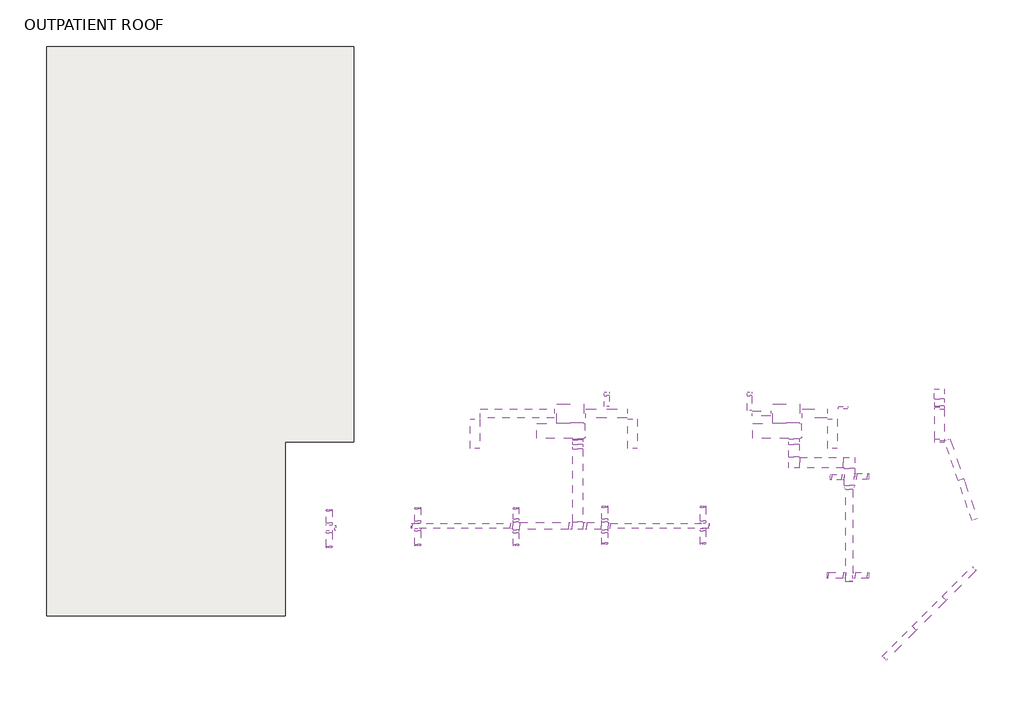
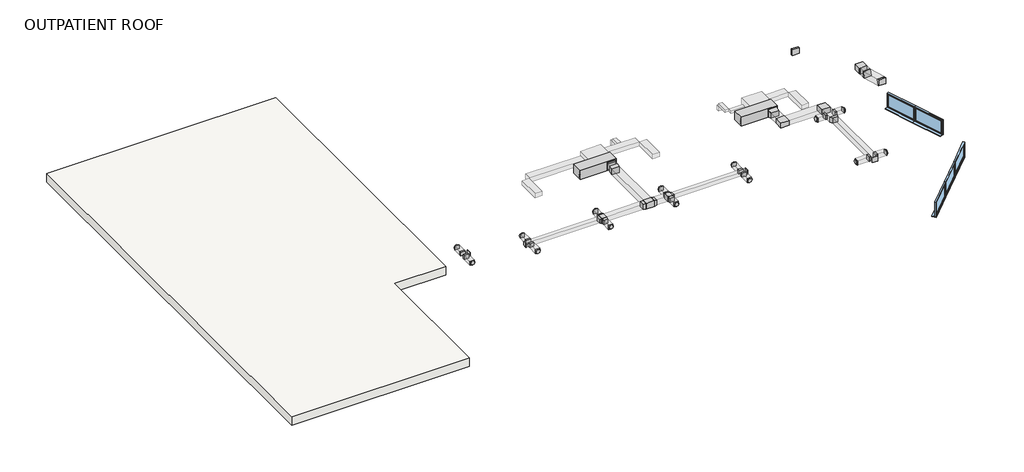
# One storey: 49 duct fittings, 39 duct segments, 5 windows, 2 proxies, 1 roof.
"""IFC4 building model written with IfcOpenShell, lengths in millimetres."""

from ifc_helpers import new_model, si_unit, frame, origin, place, context, project, spatial, polyline, outline, extrude, transform, mapped, element, save
from components import proxy_18_kw_5151a8b0, m_rectangular_duct_cross_standard_fb9310e7, m_rectangular_duct_elbow_mitered_standard_79ac9f87, m_rectangular_duct_elbow_mitered_standard_2b248f29, m_rectangular_duct_elbow_mitered_standard_fe73ea92, m_rectangular_duct_endcap_standard_7b60dd9d, m_rectangular_duct_endcap_standard_359dc76e, m_rectangular_duct_takeoff_standard_e76cbc94, m_rectangular_duct_takeoff_standard_1d6a8af3, m_rectangular_duct_takeoff_standard_c4c0db23, m_rectangular_duct_takeoff_standard_89820bfc, m_rectangular_duct_takeoff_standard_55df6f18, m_rectangular_duct_tee_standard_99600bcc, m_rectangular_duct_transition_angle_45_degree_31185545, m_rectangular_duct_transition_angle_45_degree_094bc15e, m_rectangular_duct_transition_angle_45_degree_b3017734, m_rectangular_duct_transition_angle_45_degree_f0aa5960, m_rectangular_duct_transition_angle_45_degree_accd9fbd, m_rectangular_duct_transition_angle_45_degree_b41f6140, m_rectangular_duct_transition_angle_45_degree_685b1f83, m_rectangular_to_round_duct_transition_angle_45_degree_26f3b062, m_rectangular_to_round_duct_transition_angle_45_degree_5a3a7efe, windows_concept_plain_sgl_1810x910mm_a9162c4a

model = new_model("IFC4")

# Units and contexts
model_context = context("Model", 3, world=origin())
ifc_project = project(units=[si_unit("LENGTHUNIT", "METRE", prefix="MILLI")], contexts=[model_context])

# Site, building, storey
site = spatial("IfcSite", under=ifc_project)
building = spatial("IfcBuilding", under=site)
storey = spatial("IfcBuildingStorey", under=building, Name="OUTPATIENT ROOF", Elevation=4500.0)

# Proxies
placement = place(None, origin())
proxy_18_kw_shape = proxy_18_kw_5151a8b0(model_context)
element("IfcBuildingElementProxy", 1, Name="M_WSHP - Horizontal - High Efficiency - 7-18 kW - Left Return - Right Discharge : 18 kW", ObjectType="M_WSHP - Horizontal - High Efficiency - 7-18 kW - Left Return - Right Discharge : 18 kW", at=placement, inside=storey, context=model_context, shape_type="MappedRepresentation", body=[
    mapped(proxy_18_kw_shape, transform((432831.1209559, -385954.7074796, 7485.4432391), x_axis=(0.0, -1.0, 0.0), y_axis=(1.0, 0.0, 0.0), z_axis=(0.0, 0.0, 1.0))),
])
element("IfcBuildingElementProxy", 2, Name="M_WSHP - Horizontal - High Efficiency - 7-18 kW - Left Return - Right Discharge : 18 kW", ObjectType="M_WSHP - Horizontal - High Efficiency - 7-18 kW - Left Return - Right Discharge : 18 kW", at=placement, inside=storey, context=model_context, shape_type="MappedRepresentation", body=[
    mapped(proxy_18_kw_shape, transform((442081.1209559, -385954.7074796, 7485.4432391), x_axis=(0.0, -1.0, 0.0), y_axis=(1.0, 0.0, 0.0), z_axis=(0.0, 0.0, 1.0))),
])

# Duct fittings
m_rectangular_duct_cross_standard_shape = m_rectangular_duct_cross_standard_fb9310e7(model_context)
element("IfcDuctFitting", 3, ObjectType="M_Rectangular Duct Cross : Standard", at=placement, inside=storey, context=model_context, shape_type="MappedRepresentation", body=[
    mapped(m_rectangular_duct_cross_standard_shape, transform((431949.0152402, -390342.1794977, 7685.4432391), x_axis=(1.0, 0.0, 0.0), y_axis=(0.0, -1.0, 0.0), z_axis=(0.0, 0.0, -1.0))),
])
element("IfcDuctFitting", 4, ObjectType="M_Rectangular Duct Cross : Standard", at=placement, inside=storey, context=model_context, shape_type="MappedRepresentation", body=[
    mapped(m_rectangular_duct_cross_standard_shape, transform((435749.0152402, -390342.1794977, 7685.4432391), x_axis=(1.0, 0.0, 0.0), y_axis=(0.0, 1.0, 0.0), z_axis=(0.0, 0.0, 1.0))),
])
m_rectangular_duct_elbow_mitered_standard_shape = m_rectangular_duct_elbow_mitered_standard_79ac9f87(model_context)
element("IfcDuctFitting", 5, ObjectType="M_Rectangular Duct Elbow - Mitered : Standard", at=placement, inside=storey, context=model_context, shape_type="MappedRepresentation", body=[
    mapped(m_rectangular_duct_elbow_mitered_standard_shape, transform((450068.2140217, -384679.3153221, 7084.9432391), x_axis=(0.0, 1.0, 0.0), y_axis=(-1.0, 0.0, 0.0), z_axis=(0.0, 0.0, 1.0))),
])
m_rectangular_duct_elbow_mitered_standard_2_shape = m_rectangular_duct_elbow_mitered_standard_2b248f29(model_context)
element("IfcDuctFitting", 6, ObjectType="M_Rectangular Duct Elbow - Mitered : Standard", at=placement, inside=storey, context=model_context, shape_type="MappedRepresentation", body=[
    mapped(m_rectangular_duct_elbow_mitered_standard_2_shape, transform((446208.309481, -387631.3153221, 7748.3432391), x_axis=(0.0, 1.0, 0.0), y_axis=(-1.0, 0.0, 0.0), z_axis=(0.0, 0.0, 1.0))),
])
element("IfcDuctFitting", 7, ObjectType="M_Rectangular Duct Elbow - Mitered : Standard", at=placement, inside=storey, context=model_context, shape_type="MappedRepresentation", body=[
    mapped(m_rectangular_duct_elbow_mitered_standard_2_shape, transform((443839.8209559, -387631.3153221, 7748.3432391), x_axis=(-1.0, 0.0, 0.0), y_axis=(0.0, 1.0, 0.0), z_axis=(0.0, 0.0, -1.0))),
])
m_rectangular_duct_elbow_mitered_standard_3_shape = m_rectangular_duct_elbow_mitered_standard_fe73ea92(model_context)
element("IfcDuctFitting", 8, ObjectType="M_Rectangular Duct Elbow - Mitered : Standard", at=placement, inside=storey, context=model_context, shape_type="MappedRepresentation", body=[
    mapped(m_rectangular_duct_elbow_mitered_standard_3_shape, transform((450068.2140217, -385252.5330737, 7084.9432391), x_axis=(0.0, -1.0, 0.0), y_axis=(0.0, 0.0, 1.0), z_axis=(-1.0, 0.0, 0.0))),
])
element("IfcDuctFitting", 9, ObjectType="M_Rectangular Duct Elbow - Mitered : Standard", at=placement, inside=storey, context=model_context, shape_type="MappedRepresentation", body=[
    mapped(m_rectangular_duct_elbow_mitered_standard_3_shape, transform((450068.2140217, -386709.4975704, 7484.9432391), x_axis=(0.0, -0.9643178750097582, 0.2647471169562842), y_axis=(0.0, -0.2647471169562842, -0.9643178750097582), z_axis=(1.0, 0.0, 0.0))),
])
m_rectangular_duct_endcap_standard_shape = m_rectangular_duct_endcap_standard_7b60dd9d(model_context)
element("IfcDuctFitting", 10, ObjectType="M_Rectangular Duct Endcap : Standard", at=placement, inside=storey, context=model_context, shape_type="MappedRepresentation", body=[
    mapped(m_rectangular_duct_endcap_standard_shape, transform((446208.309481, -392705.7218108, 7748.3432391), x_axis=(0.0, -1.0, 0.0), y_axis=(1.0, 0.0, 0.0), z_axis=(0.0, 0.0, 1.0))),
])
m_rectangular_duct_endcap_standard_2_shape = m_rectangular_duct_endcap_standard_359dc76e(model_context)
element("IfcDuctFitting", 11, ObjectType="M_Rectangular Duct Endcap : Standard", at=placement, inside=storey, context=model_context, shape_type="MappedRepresentation", body=[
    mapped(m_rectangular_duct_endcap_standard_2_shape, transform((424199.0152402, -390426.9178707, 8350.5), x_axis=(1.0, 0.0, 0.0), y_axis=(0.0, 1.0, 0.0), z_axis=(0.0, 0.0, 1.0))),
])
element("IfcDuctFitting", 12, ObjectType="M_Rectangular Duct Endcap : Standard", at=placement, inside=storey, context=model_context, shape_type="MappedRepresentation", body=[
    mapped(m_rectangular_duct_endcap_standard_2_shape, transform((427499.0152402, -390342.1794977, 7685.4432391), x_axis=(-1.0, 0.0, 0.0), y_axis=(0.0, -1.0, 0.0), z_axis=(0.0, 0.0, 1.0))),
])
element("IfcDuctFitting", 13, ObjectType="M_Rectangular Duct Endcap : Standard", at=placement, inside=storey, context=model_context, shape_type="MappedRepresentation", body=[
    mapped(m_rectangular_duct_endcap_standard_2_shape, transform((440199.0152402, -390342.1794977, 7685.4432391), x_axis=(1.0, 0.0, 0.0), y_axis=(0.0, 1.0, 0.0), z_axis=(0.0, 0.0, 1.0))),
])
m_rectangular_duct_takeoff_standard_shape = m_rectangular_duct_takeoff_standard_e76cbc94(model_context)
element("IfcDuctFitting", 14, ObjectType="M_Rectangular Duct Takeoff : Standard", at=placement, inside=storey, context=model_context, shape_type="MappedRepresentation", body=[
    mapped(m_rectangular_duct_takeoff_standard_shape, transform((445983.309481, -388255.7218108, 7747.9432391), x_axis=(-1.0, 0.0, 0.0), y_axis=(0.0, 1.0, 0.0), z_axis=(0.0, 0.0, -1.0))),
])
element("IfcDuctFitting", 15, ObjectType="M_Rectangular Duct Takeoff : Standard", at=placement, inside=storey, context=model_context, shape_type="MappedRepresentation", body=[
    mapped(m_rectangular_duct_takeoff_standard_shape, transform((446058.309481, -392455.7218108, 7747.9432391), x_axis=(-1.0, 0.0, 0.0), y_axis=(0.0, 1.0, 0.0), z_axis=(0.0, 0.0, -1.0))),
])
m_rectangular_duct_takeoff_standard_2_shape = m_rectangular_duct_takeoff_standard_1d6a8af3(model_context)
element("IfcDuctFitting", 16, ObjectType="M_Rectangular Duct Takeoff : Standard", at=placement, inside=storey, context=model_context, shape_type="MappedRepresentation", body=[
    mapped(m_rectangular_duct_takeoff_standard_2_shape, transform((446358.309481, -392455.7218108, 7747.9432391), x_axis=(1.0, 0.0, 0.0), y_axis=(0.0, -1.0, 0.0), z_axis=(0.0, 0.0, -1.0))),
])
element("IfcDuctFitting", 17, ObjectType="M_Rectangular Duct Takeoff : Standard", at=placement, inside=storey, context=model_context, shape_type="MappedRepresentation", body=[
    mapped(m_rectangular_duct_takeoff_standard_2_shape, transform((446433.309481, -388217.3153221, 7747.9432391), x_axis=(1.0, 0.0, 0.0), y_axis=(0.0, -1.0, 0.0), z_axis=(0.0, 0.0, -1.0))),
])
m_rectangular_duct_takeoff_standard_3_shape = m_rectangular_duct_takeoff_standard_c4c0db23(model_context)
element("IfcDuctFitting", 18, ObjectType="M_Rectangular Duct Takeoff : Standard", at=placement, inside=storey, context=model_context, shape_type="MappedRepresentation", body=[
    mapped(m_rectangular_duct_takeoff_standard_3_shape, transform((423949.0152402, -390314.4178707, 8350.5), x_axis=(0.0, 1.0, 0.0), y_axis=(1.0, 0.0, 0.0), z_axis=(0.0, 0.0, -1.0))),
])
element("IfcDuctFitting", 19, ObjectType="M_Rectangular Duct Takeoff : Standard", at=placement, inside=storey, context=model_context, shape_type="MappedRepresentation", body=[
    mapped(m_rectangular_duct_takeoff_standard_3_shape, transform((439949.0152402, -390229.6794977, 7685.4432391), x_axis=(0.0, 1.0, 0.0), y_axis=(1.0, 0.0, 0.0), z_axis=(0.0, 0.0, -1.0))),
])
element("IfcDuctFitting", 20, ObjectType="M_Rectangular Duct Takeoff : Standard", at=placement, inside=storey, context=model_context, shape_type="MappedRepresentation", body=[
    mapped(m_rectangular_duct_takeoff_standard_3_shape, transform((427749.0152402, -390454.6794977, 7685.4432391), x_axis=(0.0, -1.0, 0.0), y_axis=(-1.0, 0.0, 0.0), z_axis=(0.0, 0.0, -1.0))),
])
m_rectangular_duct_takeoff_standard_4_shape = m_rectangular_duct_takeoff_standard_89820bfc(model_context)
element("IfcDuctFitting", 21, ObjectType="M_Rectangular Duct Takeoff : Standard", at=placement, inside=storey, context=model_context, shape_type="MappedRepresentation", body=[
    mapped(m_rectangular_duct_takeoff_standard_4_shape, transform((445940.6142893, -385320.5417059, 9900.0), x_axis=(0.0, 1.0, 0.0), y_axis=(1.0, 0.0, 0.0), z_axis=(0.0, 0.0, -1.0))),
])
m_rectangular_duct_takeoff_standard_5_shape = m_rectangular_duct_takeoff_standard_55df6f18(model_context)
element("IfcDuctFitting", 22, ObjectType="M_Rectangular Duct Takeoff : Standard", at=placement, inside=storey, context=model_context, shape_type="MappedRepresentation", body=[
    mapped(m_rectangular_duct_takeoff_standard_5_shape, transform((423949.0152402, -390539.4178707, 8350.5), x_axis=(0.0, -1.0, 0.0), y_axis=(-1.0, 0.0, 0.0), z_axis=(0.0, 0.0, -1.0))),
])
element("IfcDuctFitting", 23, ObjectType="M_Rectangular Duct Takeoff : Standard", at=placement, inside=storey, context=model_context, shape_type="MappedRepresentation", body=[
    mapped(m_rectangular_duct_takeoff_standard_5_shape, transform((439949.0152402, -390454.6794977, 7685.4432391), x_axis=(0.0, -1.0, 0.0), y_axis=(-1.0, 0.0, 0.0), z_axis=(0.0, 0.0, -1.0))),
])
element("IfcDuctFitting", 24, ObjectType="M_Rectangular Duct Takeoff : Standard", at=placement, inside=storey, context=model_context, shape_type="MappedRepresentation", body=[
    mapped(m_rectangular_duct_takeoff_standard_5_shape, transform((427749.0152402, -390229.6794977, 7685.4432391), x_axis=(0.0, 1.0, 0.0), y_axis=(1.0, 0.0, 0.0), z_axis=(0.0, 0.0, -1.0))),
])
m_rectangular_duct_tee_standard_shape = m_rectangular_duct_tee_standard_99600bcc(model_context)
element("IfcDuctFitting", 25, ObjectType="M_Rectangular Duct Tee : Standard", at=placement, inside=storey, context=model_context, shape_type="MappedRepresentation", body=[
    mapped(m_rectangular_duct_tee_standard_shape, transform((434589.8209559, -390342.1794977, 7685.4432391), x_axis=(1.0, 0.0, 0.0), y_axis=(0.0, -1.0, 0.0), z_axis=(0.0, 0.0, -1.0))),
])
m_rectangular_duct_transition_angle_45_degree_shape = m_rectangular_duct_transition_angle_45_degree_31185545(model_context)
element("IfcDuctFitting", 26, ObjectType="M_Rectangular Duct Transition - Angle : 45 Degree", at=placement, inside=storey, context=model_context, shape_type="MappedRepresentation", body=[
    mapped(m_rectangular_duct_transition_angle_45_degree_shape, transform((434589.8209559, -386625.2074796, 7748.3432391), x_axis=(0.0, -1.0, 0.0), y_axis=(1.0, 0.0, 0.0), z_axis=(0.0, 0.0, 1.0))),
])
m_rectangular_duct_transition_angle_45_degree_2_shape = m_rectangular_duct_transition_angle_45_degree_094bc15e(model_context)
element("IfcDuctFitting", 27, ObjectType="M_Rectangular Duct Transition - Angle : 45 Degree", at=placement, inside=storey, context=model_context, shape_type="MappedRepresentation", body=[
    mapped(m_rectangular_duct_transition_angle_45_degree_2_shape, transform((434589.8209559, -386843.285139, 7748.3432391), x_axis=(0.0, -1.0, 0.0), y_axis=(-1.0, 0.0, 0.0), z_axis=(0.0, 0.0, -1.0))),
])
m_rectangular_duct_transition_angle_45_degree_3_shape = m_rectangular_duct_transition_angle_45_degree_b3017734(model_context)
element("IfcDuctFitting", 28, ObjectType="M_Rectangular Duct Transition - Angle : 45 Degree", at=placement, inside=storey, context=model_context, shape_type="MappedRepresentation", body=[
    mapped(m_rectangular_duct_transition_angle_45_degree_3_shape, transform((434352.3209559, -390342.1794977, 7685.4432391), x_axis=(-1.0, 0.0, 0.0), y_axis=(0.0, -1.0, 0.0), z_axis=(0.0, 0.0, 1.0))),
])
element("IfcDuctFitting", 29, ObjectType="M_Rectangular Duct Transition - Angle : 45 Degree", at=placement, inside=storey, context=model_context, shape_type="MappedRepresentation", body=[
    mapped(m_rectangular_duct_transition_angle_45_degree_3_shape, transform((434827.3209559, -390342.1794977, 7685.4432391), x_axis=(1.0, 0.0, 0.0), y_axis=(0.0, -1.0, 0.0), z_axis=(0.0, 0.0, -1.0))),
])
m_rectangular_duct_transition_angle_45_degree_4_shape = m_rectangular_duct_transition_angle_45_degree_f0aa5960(model_context)
element("IfcDuctFitting", 30, ObjectType="M_Rectangular Duct Transition - Angle : 45 Degree", at=placement, inside=storey, context=model_context, shape_type="MappedRepresentation", body=[
    mapped(m_rectangular_duct_transition_angle_45_degree_4_shape, transform((431799.0152402, -390342.1794977, 7685.4432391), x_axis=(-1.0, 0.0, 0.0), y_axis=(0.0, -1.0, 0.0), z_axis=(0.0, 0.0, 1.0))),
])
element("IfcDuctFitting", 31, ObjectType="M_Rectangular Duct Transition - Angle : 45 Degree", at=placement, inside=storey, context=model_context, shape_type="MappedRepresentation", body=[
    mapped(m_rectangular_duct_transition_angle_45_degree_4_shape, transform((435899.0152402, -390342.1794977, 7685.4432391), x_axis=(1.0, 0.0, 0.0), y_axis=(0.0, 1.0, 0.0), z_axis=(0.0, 0.0, 1.0))),
])
m_rectangular_duct_transition_angle_45_degree_5_shape = m_rectangular_duct_transition_angle_45_degree_accd9fbd(model_context)
element("IfcDuctFitting", 32, ObjectType="M_Rectangular Duct Transition - Angle : 45 Degree", at=placement, inside=storey, context=model_context, shape_type="MappedRepresentation", body=[
    mapped(m_rectangular_duct_transition_angle_45_degree_5_shape, transform((435749.0152402, -390517.1794977, 7685.4432391), x_axis=(0.0, -1.0, 0.0), y_axis=(1.0, 0.0, 0.0), z_axis=(0.0, 0.0, 1.0))),
])
element("IfcDuctFitting", 33, ObjectType="M_Rectangular Duct Transition - Angle : 45 Degree", at=placement, inside=storey, context=model_context, shape_type="MappedRepresentation", body=[
    mapped(m_rectangular_duct_transition_angle_45_degree_5_shape, transform((435749.0152402, -390167.1794977, 7685.4432391), x_axis=(0.0, 1.0, 0.0), y_axis=(-1.0, 0.0, 0.0), z_axis=(0.0, 0.0, 1.0))),
])
element("IfcDuctFitting", 34, ObjectType="M_Rectangular Duct Transition - Angle : 45 Degree", at=placement, inside=storey, context=model_context, shape_type="MappedRepresentation", body=[
    mapped(m_rectangular_duct_transition_angle_45_degree_5_shape, transform((431949.0152402, -390167.1794977, 7685.4432391), x_axis=(0.0, 1.0, 0.0), y_axis=(1.0, 0.0, 0.0), z_axis=(0.0, 0.0, -1.0))),
])
element("IfcDuctFitting", 35, ObjectType="M_Rectangular Duct Transition - Angle : 45 Degree", at=placement, inside=storey, context=model_context, shape_type="MappedRepresentation", body=[
    mapped(m_rectangular_duct_transition_angle_45_degree_5_shape, transform((431949.0152402, -390517.1794977, 7685.4432391), x_axis=(0.0, -1.0, 0.0), y_axis=(-1.0, 0.0, 0.0), z_axis=(0.0, 0.0, -1.0))),
])
m_rectangular_duct_transition_angle_45_degree_6_shape = m_rectangular_duct_transition_angle_45_degree_b41f6140(model_context)
element("IfcDuctFitting", 36, ObjectType="M_Rectangular Duct Transition - Angle : 45 Degree", at=placement, inside=storey, context=model_context, shape_type="MappedRepresentation", body=[
    mapped(m_rectangular_duct_transition_angle_45_degree_6_shape, transform((443839.8209559, -386625.2074796, 7748.3432391), x_axis=(0.0, -1.0, 0.0), y_axis=(1.0, 0.0, 0.0), z_axis=(0.0, 0.0, 1.0))),
])
m_rectangular_duct_transition_angle_45_degree_7_shape = m_rectangular_duct_transition_angle_45_degree_685b1f83(model_context)
element("IfcDuctFitting", 37, ObjectType="M_Rectangular Duct Transition - Angle : 45 Degree", at=placement, inside=storey, context=model_context, shape_type="MappedRepresentation", body=[
    mapped(m_rectangular_duct_transition_angle_45_degree_7_shape, transform((446208.309481, -388785.8153221, 7748.3432391), x_axis=(0.0, 1.0, 0.0), y_axis=(-1.0, 0.0, 0.0), z_axis=(0.0, 0.0, 1.0))),
])
m_rectangular_to_round_duct_transition_angle_45_degree_shape = m_rectangular_to_round_duct_transition_angle_45_degree_26f3b062(model_context)
element("IfcDuctFitting", 38, ObjectType="M_Rectangular to Round Duct Transition - Angle : 45 Degree", at=placement, inside=storey, context=model_context, shape_type="MappedRepresentation", body=[
    mapped(m_rectangular_to_round_duct_transition_angle_45_degree_shape, transform((435749.0152402, -391065.672513, 7685.4432391), x_axis=(0.0, -1.0, 0.0), y_axis=(-1.0, 0.0, 0.0), z_axis=(0.0, 0.0, -1.0))),
])
element("IfcDuctFitting", 39, ObjectType="M_Rectangular to Round Duct Transition - Angle : 45 Degree", at=placement, inside=storey, context=model_context, shape_type="MappedRepresentation", body=[
    mapped(m_rectangular_to_round_duct_transition_angle_45_degree_shape, transform((435749.0152402, -389549.422009, 7685.4432391), x_axis=(0.0, 1.0, 0.0), y_axis=(1.0, 0.0, 0.0), z_axis=(0.0, 0.0, -1.0))),
])
element("IfcDuctFitting", 40, ObjectType="M_Rectangular to Round Duct Transition - Angle : 45 Degree", at=placement, inside=storey, context=model_context, shape_type="MappedRepresentation", body=[
    mapped(m_rectangular_to_round_duct_transition_angle_45_degree_shape, transform((431949.0152402, -389618.6864824, 7685.4432391), x_axis=(0.0, 1.0, 0.0), y_axis=(1.0, 0.0, 0.0), z_axis=(0.0, 0.0, -1.0))),
])
element("IfcDuctFitting", 41, ObjectType="M_Rectangular to Round Duct Transition - Angle : 45 Degree", at=placement, inside=storey, context=model_context, shape_type="MappedRepresentation", body=[
    mapped(m_rectangular_to_round_duct_transition_angle_45_degree_shape, transform((431949.0152402, -391134.9369864, 7685.4432391), x_axis=(0.0, -1.0, 0.0), y_axis=(-1.0, 0.0, 0.0), z_axis=(0.0, 0.0, -1.0))),
])
element("IfcDuctFitting", 42, ObjectType="M_Rectangular to Round Duct Transition - Angle : 45 Degree", at=placement, inside=storey, context=model_context, shape_type="MappedRepresentation", body=[
    mapped(m_rectangular_to_round_duct_transition_angle_45_degree_shape, transform((445450.184229, -388255.7218108, 7747.9432391), x_axis=(-1.0, 0.0, 0.0), y_axis=(0.0, 1.0, 0.0), z_axis=(0.0, 0.0, -1.0))),
])
element("IfcDuctFitting", 43, ObjectType="M_Rectangular to Round Duct Transition - Angle : 45 Degree", at=placement, inside=storey, context=model_context, shape_type="MappedRepresentation", body=[
    mapped(m_rectangular_to_round_duct_transition_angle_45_degree_shape, transform((446966.434733, -392455.7218108, 7747.9432391), x_axis=(1.0, 0.0, 0.0), y_axis=(0.0, -1.0, 0.0), z_axis=(0.0, 0.0, -1.0))),
])
element("IfcDuctFitting", 44, ObjectType="M_Rectangular to Round Duct Transition - Angle : 45 Degree", at=placement, inside=storey, context=model_context, shape_type="MappedRepresentation", body=[
    mapped(m_rectangular_to_round_duct_transition_angle_45_degree_shape, transform((446980.809481, -388217.3153221, 7747.9432391), x_axis=(1.0, 0.0, 0.0), y_axis=(0.0, -1.0, 0.0), z_axis=(0.0, 0.0, -1.0))),
])
element("IfcDuctFitting", 45, ObjectType="M_Rectangular to Round Duct Transition - Angle : 45 Degree", at=placement, inside=storey, context=model_context, shape_type="MappedRepresentation", body=[
    mapped(m_rectangular_to_round_duct_transition_angle_45_degree_shape, transform((445315.809481, -392455.7218108, 7747.9432391), x_axis=(-1.0, 0.0, 0.0), y_axis=(0.0, 1.0, 0.0), z_axis=(0.0, 0.0, -1.0))),
])
m_rectangular_to_round_duct_transition_angle_45_degree_2_shape = m_rectangular_to_round_duct_transition_angle_45_degree_5a3a7efe(model_context)
element("IfcDuctFitting", 46, ObjectType="M_Rectangular to Round Duct Transition - Angle : 45 Degree", at=placement, inside=storey, context=model_context, shape_type="MappedRepresentation", body=[
    mapped(m_rectangular_to_round_duct_transition_angle_45_degree_2_shape, transform((423949.0152402, -389695.4207946, 8350.5), x_axis=(0.0, 1.0, 0.0), y_axis=(1.0, 0.0, 0.0), z_axis=(0.0, 0.0, -1.0))),
])
element("IfcDuctFitting", 47, ObjectType="M_Rectangular to Round Duct Transition - Angle : 45 Degree", at=placement, inside=storey, context=model_context, shape_type="MappedRepresentation", body=[
    mapped(m_rectangular_to_round_duct_transition_angle_45_degree_2_shape, transform((423949.0152402, -391211.6712986, 8350.5), x_axis=(0.0, -1.0, 0.0), y_axis=(-1.0, 0.0, 0.0), z_axis=(0.0, 0.0, -1.0))),
])
element("IfcDuctFitting", 48, ObjectType="M_Rectangular to Round Duct Transition - Angle : 45 Degree", at=placement, inside=storey, context=model_context, shape_type="MappedRepresentation", body=[
    mapped(m_rectangular_to_round_duct_transition_angle_45_degree_2_shape, transform((439949.0152402, -391065.672513, 7685.4432391), x_axis=(0.0, -1.0, 0.0), y_axis=(-1.0, 0.0, 0.0), z_axis=(0.0, 0.0, -1.0))),
])
element("IfcDuctFitting", 49, ObjectType="M_Rectangular to Round Duct Transition - Angle : 45 Degree", at=placement, inside=storey, context=model_context, shape_type="MappedRepresentation", body=[
    mapped(m_rectangular_to_round_duct_transition_angle_45_degree_2_shape, transform((439949.0152402, -389549.422009, 7685.4432391), x_axis=(0.0, 1.0, 0.0), y_axis=(1.0, 0.0, 0.0), z_axis=(0.0, 0.0, -1.0))),
])
element("IfcDuctFitting", 50, ObjectType="M_Rectangular to Round Duct Transition - Angle : 45 Degree", at=placement, inside=storey, context=model_context, shape_type="MappedRepresentation", body=[
    mapped(m_rectangular_to_round_duct_transition_angle_45_degree_2_shape, transform((427749.0152402, -389618.6864824, 7685.4432391), x_axis=(0.0, 1.0, 0.0), y_axis=(-1.0, 0.0, 0.0), z_axis=(0.0, 0.0, 1.0))),
])
element("IfcDuctFitting", 51, ObjectType="M_Rectangular to Round Duct Transition - Angle : 45 Degree", at=placement, inside=storey, context=model_context, shape_type="MappedRepresentation", body=[
    mapped(m_rectangular_to_round_duct_transition_angle_45_degree_2_shape, transform((427749.0152402, -391134.9369864, 7685.4432391), x_axis=(0.0, -1.0, 0.0), y_axis=(1.0, 0.0, 0.0), z_axis=(0.0, 0.0, 1.0))),
])

# Duct segments
element("IfcDuctSegment", 52, ObjectType="Mitered Elbows / Taps", at=placement, inside=storey, context=model_context, shape_type="SweptSolid", body=[
    extrude(outline(polyline([(424074.0152402, -390212.8178707), (423824.0152402, -390212.8178707), (423824.0152402, -389695.4207946), (424074.0152402, -389695.4207946), (424074.0152402, -390212.8178707)])), frame((0.0, 0.0, 8238.0), z_axis=(0.0, 0.0, 1.0), x_axis=(1.0, 0.0, 0.0)), (0.0, 0.0, 1.0), 225.0),
])
element("IfcDuctSegment", 53, ObjectType="Mitered Elbows / Taps", at=placement, inside=storey, context=model_context, shape_type="SweptSolid", body=[
    extrude(outline(polyline([(424074.0152402, -391211.6712986), (423824.0152402, -391211.6712986), (423824.0152402, -390641.0178707), (424074.0152402, -390641.0178707), (424074.0152402, -391211.6712986)])), frame((0.0, 0.0, 8238.0), z_axis=(0.0, 0.0, 1.0), x_axis=(1.0, 0.0, 0.0)), (0.0, 0.0, 1.0), 225.0),
])
element("IfcDuctSegment", 54, ObjectType="Mitered Elbows / Taps", at=placement, inside=storey, context=model_context, shape_type="SweptSolid", body=[
    extrude(outline(polyline([(431824.0152402, -390642.1794977), (432074.0152402, -390642.1794977), (432074.0152402, -391134.9369864), (431824.0152402, -391134.9369864), (431824.0152402, -390642.1794977)])), frame((0.0, 0.0, 7560.4432391), z_axis=(0.0, 0.0, 1.0), x_axis=(1.0, 0.0, 0.0)), (0.0, 0.0, 1.0), 250.0),
])
element("IfcDuctSegment", 55, ObjectType="Mitered Elbows / Taps", at=placement, inside=storey, context=model_context, shape_type="SweptSolid", body=[
    extrude(outline(polyline([(432074.0152402, -390042.1794977), (431824.0152402, -390042.1794977), (431824.0152402, -389618.6864824), (432074.0152402, -389618.6864824), (432074.0152402, -390042.1794977)])), frame((0.0, 0.0, 7560.4432391), z_axis=(0.0, 0.0, 1.0), x_axis=(1.0, 0.0, 0.0)), (0.0, 0.0, 1.0), 250.0),
])
element("IfcDuctSegment", 56, ObjectType="Mitered Elbows / Taps", at=placement, inside=storey, context=model_context, shape_type="SweptSolid", body=[
    extrude(outline(polyline([(435874.0152402, -390042.1794977), (435624.0152402, -390042.1794977), (435624.0152402, -389549.422009), (435874.0152402, -389549.422009), (435874.0152402, -390042.1794977)])), frame((0.0, 0.0, 7560.4432391), z_axis=(0.0, 0.0, 1.0), x_axis=(1.0, 0.0, 0.0)), (0.0, 0.0, 1.0), 250.0),
])
element("IfcDuctSegment", 57, ObjectType="Mitered Elbows / Taps", at=placement, inside=storey, context=model_context, shape_type="SweptSolid", body=[
    extrude(outline(polyline([(435624.0152402, -390642.1794977), (435874.0152402, -390642.1794977), (435874.0152402, -391065.672513), (435624.0152402, -391065.672513), (435624.0152402, -390642.1794977)])), frame((0.0, 0.0, 7560.4432391), z_axis=(0.0, 0.0, 1.0), x_axis=(1.0, 0.0, 0.0)), (0.0, 0.0, 1.0), 250.0),
])
element("IfcDuctSegment", 58, ObjectType="Mitered Elbows / Taps", at=placement, inside=storey, context=model_context, shape_type="SweptSolid", body=[
    extrude(outline(polyline([(439824.0152402, -390556.2794977), (440074.0152402, -390556.2794977), (440074.0152402, -391065.672513), (439824.0152402, -391065.672513), (439824.0152402, -390556.2794977)])), frame((0.0, 0.0, 7572.9432391), z_axis=(0.0, 0.0, 1.0), x_axis=(1.0, 0.0, 0.0)), (0.0, 0.0, 1.0), 225.0),
])
element("IfcDuctSegment", 59, ObjectType="Mitered Elbows / Taps", at=placement, inside=storey, context=model_context, shape_type="SweptSolid", body=[
    extrude(outline(polyline([(439824.0152402, -389549.422009), (440074.0152402, -389549.422009), (440074.0152402, -390128.0794977), (439824.0152402, -390128.0794977), (439824.0152402, -389549.422009)])), frame((0.0, 0.0, 7572.9432391), z_axis=(0.0, 0.0, 1.0), x_axis=(1.0, 0.0, 0.0)), (0.0, 0.0, 1.0), 225.0),
])
element("IfcDuctSegment", 60, ObjectType="Mitered Elbows / Taps", at=placement, inside=storey, context=model_context, shape_type="SweptSolid", body=[
    extrude(outline(polyline([(445881.709481, -388130.7218108), (445881.709481, -388380.7218108), (445450.184229, -388380.7218108), (445450.184229, -388130.7218108), (445881.709481, -388130.7218108)])), frame((0.0, 0.0, 7622.9432391), z_axis=(0.0, 0.0, 1.0), x_axis=(1.0, 0.0, 0.0)), (0.0, 0.0, 1.0), 250.0),
])
element("IfcDuctSegment", 61, ObjectType="Mitered Elbows / Taps", at=placement, inside=storey, context=model_context, shape_type="SweptSolid", body=[
    extrude(outline(polyline([(446459.909481, -392580.7218108), (446459.909481, -392330.7218108), (446966.434733, -392330.7218108), (446966.434733, -392580.7218108), (446459.909481, -392580.7218108)])), frame((0.0, 0.0, 7622.9432391), z_axis=(0.0, 0.0, 1.0), x_axis=(1.0, 0.0, 0.0)), (0.0, 0.0, 1.0), 250.0),
])
element("IfcDuctSegment", 62, ObjectType="Mitered Elbows / Taps", at=placement, inside=storey, context=model_context, shape_type="SweptSolid", body=[
    extrude(outline(polyline([(446433.309481, -388604.7493049), (445983.309481, -388604.7493049), (445983.309481, -387881.3153221), (446433.309481, -387881.3153221), (446433.309481, -388604.7493049)])), frame((0.0, 0.0, 7598.3432391), z_axis=(0.0, 0.0, 1.0), x_axis=(1.0, 0.0, 0.0)), (0.0, 0.0, 1.0), 300.0),
])
element("IfcDuctSegment", 63, ObjectType="Mitered Elbows / Taps", at=placement, inside=storey, context=model_context, shape_type="SweptSolid", body=[
    extrude(outline(polyline([(445958.309481, -387406.3153221), (445958.309481, -387856.3153221), (444089.8209559, -387856.3153221), (444089.8209559, -387406.3153221), (445958.309481, -387406.3153221)])), frame((0.0, 0.0, 7598.3432391), z_axis=(0.0, 0.0, 1.0), x_axis=(1.0, 0.0, 0.0)), (0.0, 0.0, 1.0), 300.0),
])
element("IfcDuctSegment", 64, ObjectType="Mitered Elbows / Taps", at=placement, inside=storey, context=model_context, shape_type="SweptSolid", body=[
    extrude(outline(polyline([(444064.8209559, -387381.3153221), (443614.8209559, -387381.3153221), (443614.8209559, -386850.2074796), (444064.8209559, -386850.2074796), (444064.8209559, -387381.3153221)])), frame((0.0, 0.0, 7598.3432391), z_axis=(0.0, 0.0, 1.0), x_axis=(1.0, 0.0, 0.0)), (0.0, 0.0, 1.0), 300.0),
])
element("IfcDuctSegment", 65, ObjectType="Mitered Elbows / Taps", at=placement, inside=storey, context=model_context, shape_type="SweptSolid", body=[
    extrude(outline(polyline([(446358.309481, -392705.7218108), (446058.309481, -392705.7218108), (446058.309481, -388785.8153221), (446358.309481, -388785.8153221), (446358.309481, -392705.7218108)])), frame((0.0, 0.0, 7598.3432391), z_axis=(0.0, 0.0, 1.0), x_axis=(1.0, 0.0, 0.0)), (0.0, 0.0, 1.0), 300.0),
])
element("IfcDuctSegment", 66, ObjectType="Mitered Elbows / Taps", at=placement, inside=storey, context=model_context, shape_type="SweptSolid", body=[
    extrude(outline(polyline([(446980.809481, -388092.3153221), (446980.809481, -388342.3153221), (446534.909481, -388342.3153221), (446534.909481, -388092.3153221), (446980.809481, -388092.3153221)])), frame((0.0, 0.0, 7622.9432391), z_axis=(0.0, 0.0, 1.0), x_axis=(1.0, 0.0, 0.0)), (0.0, 0.0, 1.0), 250.0),
])
element("IfcDuctSegment", 67, ObjectType="Mitered Elbows / Taps", at=placement, inside=storey, context=model_context, shape_type="SweptSolid", body=[
    extrude(outline(polyline([(445315.809481, -392580.7218108), (445315.809481, -392330.7218108), (445956.709481, -392330.7218108), (445956.709481, -392580.7218108), (445315.809481, -392580.7218108)])), frame((0.0, 0.0, 7622.9432391), z_axis=(0.0, 0.0, 1.0), x_axis=(1.0, 0.0, 0.0)), (0.0, 0.0, 1.0), 250.0),
])
element("IfcDuctSegment", 68, ObjectType="Mitered Elbows / Taps", at=placement, inside=storey, context=model_context, shape_type="SweptSolid", body=[
    extrude(outline(polyline([(444087.7209559, -385929.3074796), (442937.7209559, -385929.3074796), (442937.7209559, -385129.3074796), (444087.7209559, -385129.3074796), (444087.7209559, -385929.3074796)])), frame((0.0, 0.0, 7505.9432391), z_axis=(0.0, 0.0, 1.0), x_axis=(1.0, 0.0, 0.0)), (0.0, 0.0, 1.0), 500.0),
])
element("IfcDuctSegment", 69, ObjectType="Mitered Elbows / Taps", at=placement, inside=storey, context=model_context, shape_type="SweptSolid", body=[
    extrude(outline(polyline([(444189.3209559, -385729.3074796), (444189.3209559, -385329.3074796), (445262.7209559, -385329.3074796), (445262.7209559, -385729.3074796), (444189.3209559, -385729.3074796)])), frame((0.0, 0.0, 7630.9432391), z_axis=(0.0, 0.0, 1.0), x_axis=(1.0, 0.0, 0.0)), (0.0, 0.0, 1.0), 250.0),
])
element("IfcDuctSegment", 70, ObjectType="Mitered Elbows / Taps", at=placement, inside=storey, context=model_context, shape_type="SweptSolid", body=[
    extrude(outline(polyline([(445287.7209559, -385754.3074796), (445687.7209559, -385754.3074796), (445687.7209559, -387029.3074796), (445287.7209559, -387029.3074796), (445287.7209559, -385754.3074796)])), frame((0.0, 0.0, 7630.9432391), z_axis=(0.0, 0.0, 1.0), x_axis=(1.0, 0.0, 0.0)), (0.0, 0.0, 1.0), 250.0),
])
element("IfcDuctSegment", 71, ObjectType="Mitered Elbows / Taps", at=placement, inside=storey, context=model_context, shape_type="SweptSolid", body=[
    extrude(outline(polyline([(434837.7209559, -385929.3074796), (433687.7209559, -385929.3074796), (433687.7209559, -385129.3074796), (434837.7209559, -385129.3074796), (434837.7209559, -385929.3074796)])), frame((0.0, 0.0, 7505.9432391), z_axis=(0.0, 0.0, 1.0), x_axis=(1.0, 0.0, 0.0)), (0.0, 0.0, 1.0), 500.0),
])
element("IfcDuctSegment", 72, ObjectType="Mitered Elbows / Taps", at=placement, inside=storey, context=model_context, shape_type="SweptSolid", body=[
    extrude(outline(polyline([(434939.3209559, -385729.3074796), (434939.3209559, -385329.3074796), (436712.7209559, -385329.3074796), (436712.7209559, -385729.3074796), (434939.3209559, -385729.3074796)])), frame((0.0, 0.0, 7630.9432391), z_axis=(0.0, 0.0, 1.0), x_axis=(1.0, 0.0, 0.0)), (0.0, 0.0, 1.0), 250.0),
])
element("IfcDuctSegment", 73, ObjectType="Mitered Elbows / Taps", at=placement, inside=storey, context=model_context, shape_type="SweptSolid", body=[
    extrude(outline(polyline([(436737.7209559, -385754.3074796), (437137.7209559, -385754.3074796), (437137.7209559, -387029.3074796), (436737.7209559, -387029.3074796), (436737.7209559, -385754.3074796)])), frame((0.0, 0.0, 7630.9432391), z_axis=(0.0, 0.0, 1.0), x_axis=(1.0, 0.0, 0.0)), (0.0, 0.0, 1.0), 250.0),
])
element("IfcDuctSegment", 74, ObjectType="Mitered Elbows / Taps", at=placement, inside=storey, context=model_context, shape_type="SweptSolid", body=[
    extrude(outline(polyline([(433586.1209559, -385329.3074796), (433586.1209559, -385729.3074796), (430412.7209559, -385729.3074796), (430412.7209559, -385329.3074796), (433586.1209559, -385329.3074796)])), frame((0.0, 0.0, 7630.9432391), z_axis=(0.0, 0.0, 1.0), x_axis=(1.0, 0.0, 0.0)), (0.0, 0.0, 1.0), 250.0),
])
element("IfcDuctSegment", 75, ObjectType="Mitered Elbows / Taps", at=placement, inside=storey, context=model_context, shape_type="SweptSolid", body=[
    extrude(outline(polyline([(429987.7209559, -385754.3074796), (430387.7209559, -385754.3074796), (430387.7209559, -387029.3074796), (429987.7209559, -387029.3074796), (429987.7209559, -385754.3074796)])), frame((0.0, 0.0, 7630.9432391), z_axis=(0.0, 0.0, 1.0), x_axis=(1.0, 0.0, 0.0)), (0.0, 0.0, 1.0), 250.0),
])
element("IfcDuctSegment", 76, ObjectType="Mitered Elbows / Taps", at=placement, inside=storey, context=model_context, shape_type="SweptSolid", body=[
    extrude(outline(polyline([(449868.2140217, -384904.3153221), (450268.2140217, -384904.3153221), (450268.2140217, -385203.9468986), (449868.2140217, -385203.9468986), (449868.2140217, -384904.3153221)])), frame((0.0, 0.0, 6909.9432391), z_axis=(0.0, 0.0, 1.0), x_axis=(1.0, 0.0, 0.0)), (0.0, 0.0, 1.0), 350.0),
])
element("IfcDuctSegment", 77, ObjectType="Mitered Elbows / Taps", at=placement, inside=storey, context=model_context, shape_type="SweptSolid", body=[
    extrude(outline(polyline([(0.0, -400.0), (0.0, 0.0), (1413.7034039, 0.0), (1413.7034039, -400.0), (0.0, -400.0)])), frame((450268.2140217, -385345.7163364, 6929.0506608), z_axis=(0.0, 0.26474711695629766, 0.9643178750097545), x_axis=(0.0, -0.9643178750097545, 0.26474711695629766)), (0.0, 0.0, 1.0), 350.0),
])
element("IfcDuctSegment", 78, ObjectType="Mitered Elbows / Taps", at=placement, inside=storey, context=model_context, shape_type="SweptSolid", body=[
    extrude(outline(polyline([(435726.0209559, -384779.3153221), (435926.0209559, -384779.3153221), (435926.0209559, -385227.7074796), (435726.0209559, -385227.7074796), (435726.0209559, -384779.3153221)])), frame((0.0, 0.0, 7680.9432391), z_axis=(0.0, 0.0, 1.0), x_axis=(1.0, 0.0, 0.0)), (0.0, 0.0, 1.0), 150.0),
])
element("IfcDuctSegment", 79, ObjectType="Mitered Elbows / Taps", at=placement, inside=storey, context=model_context, shape_type="SweptSolid", body=[
    extrude(outline(polyline([(435726.0209559, -384604.3153221), (435926.0209559, -384604.3153221), (435926.0209559, -384754.3153221), (435726.0209559, -384754.3153221), (435726.0209559, -384604.3153221)])), frame((0.0, 0.0, 7361.5432391), z_axis=(0.0, 0.0, 1.0), x_axis=(1.0, 0.0, 0.0)), (0.0, 0.0, 1.0), 294.4),
])
element("IfcDuctSegment", 80, ObjectType="Mitered Elbows / Taps", at=placement, inside=storey, context=model_context, shape_type="SweptSolid", body=[
    extrude(outline(polyline([(442836.1209559, -385429.3074796), (442836.1209559, -385629.3074796), (442062.7209559, -385629.3074796), (442062.7209559, -385429.3074796), (442836.1209559, -385429.3074796)])), frame((0.0, 0.0, 7680.9432391), z_axis=(0.0, 0.0, 1.0), x_axis=(1.0, 0.0, 0.0)), (0.0, 0.0, 1.0), 150.0),
])
element("IfcDuctSegment", 81, ObjectType="Mitered Elbows / Taps", at=placement, inside=storey, context=model_context, shape_type="SweptSolid", body=[
    extrude(outline(polyline([(441837.7209559, -384779.3153221), (442037.7209559, -384779.3153221), (442037.7209559, -385404.3074796), (441837.7209559, -385404.3074796), (441837.7209559, -384779.3153221)])), frame((0.0, 0.0, 7680.9432391), z_axis=(0.0, 0.0, 1.0), x_axis=(1.0, 0.0, 0.0)), (0.0, 0.0, 1.0), 150.0),
])
element("IfcDuctSegment", 82, ObjectType="Mitered Elbows / Taps", at=placement, inside=storey, context=model_context, shape_type="SweptSolid", body=[
    extrude(outline(polyline([(441837.7209559, -384604.3153221), (442037.7209559, -384604.3153221), (442037.7209559, -384754.3153221), (441837.7209559, -384754.3153221), (441837.7209559, -384604.3153221)])), frame((0.0, 0.0, 7361.5432391), z_axis=(0.0, 0.0, 1.0), x_axis=(1.0, 0.0, 0.0)), (0.0, 0.0, 1.0), 294.4),
])
element("IfcDuctSegment", 83, ObjectType="Mitered Elbows / Taps", at=placement, inside=storey, context=model_context, shape_type="SweptSolid", body=[
    extrude(outline(polyline([(427874.0152402, -390128.0794977), (427624.0152402, -390128.0794977), (427624.0152402, -389618.6864824), (427874.0152402, -389618.6864824), (427874.0152402, -390128.0794977)])), frame((0.0, 0.0, 7572.9432391), z_axis=(0.0, 0.0, 1.0), x_axis=(1.0, 0.0, 0.0)), (0.0, 0.0, 1.0), 225.0),
])
element("IfcDuctSegment", 84, ObjectType="Mitered Elbows / Taps", at=placement, inside=storey, context=model_context, shape_type="SweptSolid", body=[
    extrude(outline(polyline([(427624.0152402, -390556.2794977), (427874.0152402, -390556.2794977), (427874.0152402, -391134.9369864), (427624.0152402, -391134.9369864), (427624.0152402, -390556.2794977)])), frame((0.0, 0.0, 7572.9432391), z_axis=(0.0, 0.0, 1.0), x_axis=(1.0, 0.0, 0.0)), (0.0, 0.0, 1.0), 225.0),
])
element("IfcDuctSegment", 85, ObjectType="Mitered Elbows / Tees", at=placement, inside=storey, context=model_context, shape_type="SweptSolid", body=[
    extrude(outline(polyline([(434377.3209559, -386655.3851492), (434802.3209559, -386655.3851492), (434802.3209559, -386843.285139), (434377.3209559, -386843.285139), (434377.3209559, -386655.3851492)])), frame((0.0, 0.0, 7573.3432391), z_axis=(0.0, 0.0, 1.0), x_axis=(1.0, 0.0, 0.0)), (0.0, 0.0, 1.0), 350.0),
])
element("IfcDuctSegment", 86, ObjectType="Mitered Elbows / Tees", at=placement, inside=storey, context=model_context, shape_type="SweptSolid", body=[
    extrude(outline(polyline([(434802.3209559, -390167.1794977), (434377.3209559, -390167.1794977), (434377.3209559, -387055.785139), (434802.3209559, -387055.785139), (434802.3209559, -390167.1794977)])), frame((0.0, 0.0, 7510.4432391), z_axis=(0.0, 0.0, 1.0), x_axis=(1.0, 0.0, 0.0)), (0.0, 0.0, 1.0), 350.0),
])
element("IfcDuctSegment", 87, ObjectType="Mitered Elbows / Tees", at=placement, inside=storey, context=model_context, shape_type="SweptSolid", body=[
    extrude(outline(polyline([(427499.0152402, -390454.6794977), (427499.0152402, -390229.6794977), (431708.4822316, -390229.6794977), (431708.4822316, -390454.6794977), (427499.0152402, -390454.6794977)])), frame((0.0, 0.0, 7572.9432391), z_axis=(0.0, 0.0, 1.0), x_axis=(1.0, 0.0, 0.0)), (0.0, 0.0, 1.0), 225.0),
])
element("IfcDuctSegment", 88, ObjectType="Mitered Elbows / Tees", at=placement, inside=storey, context=model_context, shape_type="SweptSolid", body=[
    extrude(outline(polyline([(434977.3209559, -390492.1794977), (434977.3209559, -390192.1794977), (435599.0152402, -390192.1794977), (435599.0152402, -390492.1794977), (434977.3209559, -390492.1794977)])), frame((0.0, 0.0, 7535.4432391), z_axis=(0.0, 0.0, 1.0), x_axis=(1.0, 0.0, 0.0)), (0.0, 0.0, 1.0), 300.0),
])
element("IfcDuctSegment", 89, ObjectType="Mitered Elbows / Tees", at=placement, inside=storey, context=model_context, shape_type="SweptSolid", body=[
    extrude(outline(polyline([(435989.5482488, -390454.6794977), (435989.5482488, -390229.6794977), (440199.0152402, -390229.6794977), (440199.0152402, -390454.6794977), (435989.5482488, -390454.6794977)])), frame((0.0, 0.0, 7572.9432391), z_axis=(0.0, 0.0, 1.0), x_axis=(1.0, 0.0, 0.0)), (0.0, 0.0, 1.0), 225.0),
])
element("IfcDuctSegment", 90, ObjectType="Mitered Elbows / Tees", at=placement, inside=storey, context=model_context, shape_type="SweptSolid", body=[
    extrude(outline(polyline([(432099.0152402, -390492.1794977), (432099.0152402, -390192.1794977), (434202.3209559, -390192.1794977), (434202.3209559, -390492.1794977), (432099.0152402, -390492.1794977)])), frame((0.0, 0.0, 7535.4432391), z_axis=(0.0, 0.0, 1.0), x_axis=(1.0, 0.0, 0.0)), (0.0, 0.0, 1.0), 300.0),
])

# Roof
element("IfcRoof", 91, ObjectType="Roof_Generic400mm", at=placement, inside=storey, context=model_context, shape_type="SweptSolid", body=[
    extrude(outline(polyline([(411860.3206883, -369815.0026386), (425012.3206883, -369815.0026386), (425012.3206883, -386739.0026386), (422066.3206883, -386739.0026386), (422066.3206883, -394194.0026386), (411860.3206883, -394194.0026386), (411860.3206883, -369815.0026386)])), frame((0.0, 0.0, 4500.0), z_axis=(0.0, 0.0, 1.0), x_axis=(1.0, 0.0, 0.0)), (0.0, 0.0, 1.0), 525.0),
])

# Windows
windows_concept_plain_sgl_1810x910mm_shape = windows_concept_plain_sgl_1810x910mm_a9162c4a(model_context)
element("IfcWindow", 92, ObjectType="Windows_Concept_Plain_Sgl : 1810x910mm", at=placement, inside=storey, context=model_context, shape_type="MappedRepresentation", body=[
    mapped(windows_concept_plain_sgl_1810x910mm_shape, transform((450759.7137274, -387480.6222263, 4500.0), x_axis=(-0.32556815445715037, 0.9455185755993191, 0.0), y_axis=(-0.9455185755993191, -0.32556815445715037, 0.0), z_axis=(0.0, 0.0, 1.0))),
])
element("IfcWindow", 93, ObjectType="Windows_Concept_Plain_Sgl : 1810x910mm", at=placement, inside=storey, context=model_context, shape_type="MappedRepresentation", body=[
    mapped(windows_concept_plain_sgl_1810x910mm_shape, transform((451348.992087, -389192.0108481, 4500.0), x_axis=(-0.32556815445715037, 0.9455185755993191, 0.0), y_axis=(-0.9455185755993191, -0.32556815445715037, 0.0), z_axis=(0.0, 0.0, 1.0))),
])
element("IfcWindow", 94, ObjectType="Windows_Concept_Plain_Sgl : 1810x910mm", at=placement, inside=storey, context=model_context, shape_type="MappedRepresentation", body=[
    mapped(windows_concept_plain_sgl_1810x910mm_shape, transform((450956.7104644, -392856.7017418, 4500.0), x_axis=(0.7071067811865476, 0.7071067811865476, 0.0), y_axis=(-0.7071067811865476, 0.7071067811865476, 0.0), z_axis=(0.0, 0.0, 1.0))),
])
element("IfcWindow", 95, ObjectType="Windows_Concept_Plain_Sgl : 1810x910mm", at=placement, inside=storey, context=model_context, shape_type="MappedRepresentation", body=[
    mapped(windows_concept_plain_sgl_1810x910mm_shape, transform((449676.8471904, -394136.5650158, 4500.0), x_axis=(0.7071067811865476, 0.7071067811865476, 0.0), y_axis=(-0.7071067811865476, 0.7071067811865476, 0.0), z_axis=(0.0, 0.0, 1.0))),
])
element("IfcWindow", 96, ObjectType="Windows_Concept_Plain_Sgl : 1810x910mm", at=placement, inside=storey, context=model_context, shape_type="MappedRepresentation", body=[
    mapped(windows_concept_plain_sgl_1810x910mm_shape, transform((448400.6861845, -395412.7260218, 4500.0), x_axis=(0.7071067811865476, 0.7071067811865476, 0.0), y_axis=(-0.7071067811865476, 0.7071067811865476, 0.0), z_axis=(0.0, 0.0, 1.0))),
])

save(model, "model.ifc")
